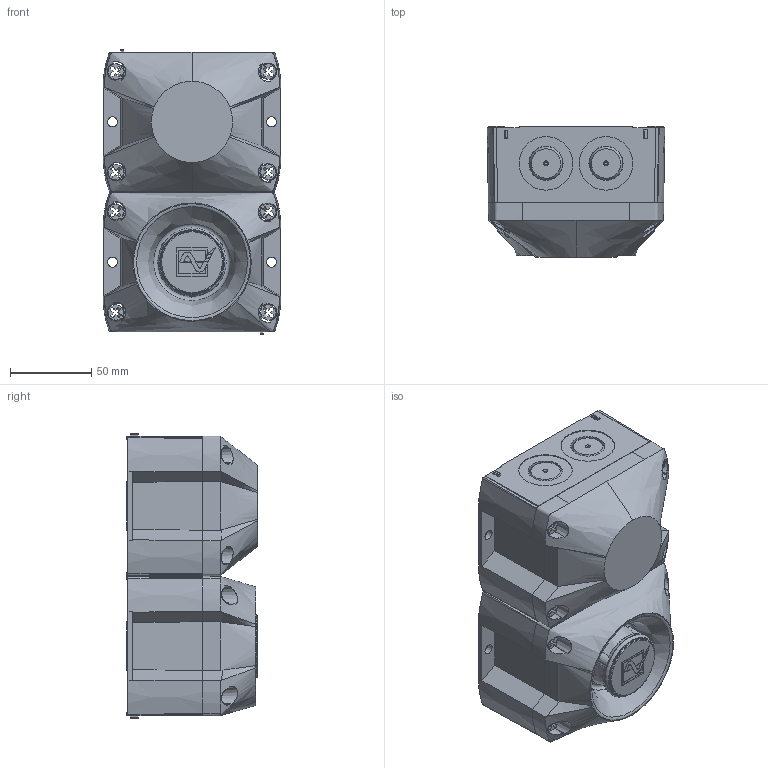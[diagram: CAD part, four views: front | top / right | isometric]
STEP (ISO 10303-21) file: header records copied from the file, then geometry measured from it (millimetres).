
FILE_DESCRIPTION (( 'STEP AP214' ), '1' );
FILE_NAME ('PAX1_30303-100.STEP', '2012-01-10T09:54:47', ( ' ' ), ( ' ' ), 'SwSTEP 2.0', 'SolidWorks 2011', '' );
FILE_SCHEMA (( 'AUTOMOTIVE_DESIGN' ));
Length unit declared in the file: millimetre
Products named in the file (1): PAX1_30303-100
Bounding box: 109.61 x 80.6 x 175.4 mm (x, y, z)
Surface area: 124913.4 mm2 (no closed solid volume)
Topology: 0 solids, 61 shells, 525 faces, 2228 edges, 1767 vertices
Faces by surface type: plane 275, cone 113, cylinder 63, bspline 53, torus 20, sphere 1
Full cylindrical faces by diameter (mm): 38.4 x1
Entity records: 35247 total; most frequent: CARTESIAN_POINT 12661, ORIENTED_EDGE 3116, DIRECTION 3104, EDGE_CURVE 2172, VERTEX_POINT 1747, LINE 1054, VECTOR 1054, AXIS2_PLACEMENT_3D 1025
